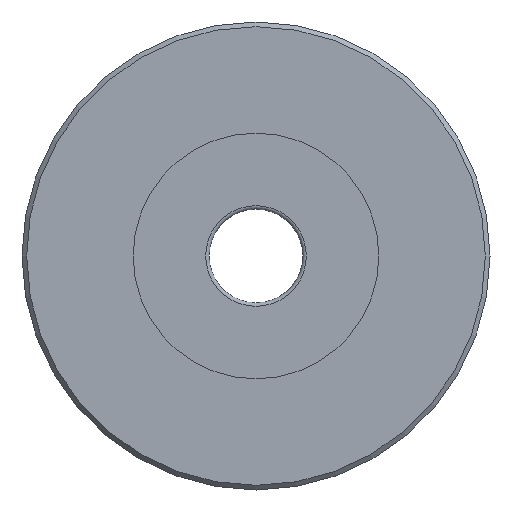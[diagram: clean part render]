
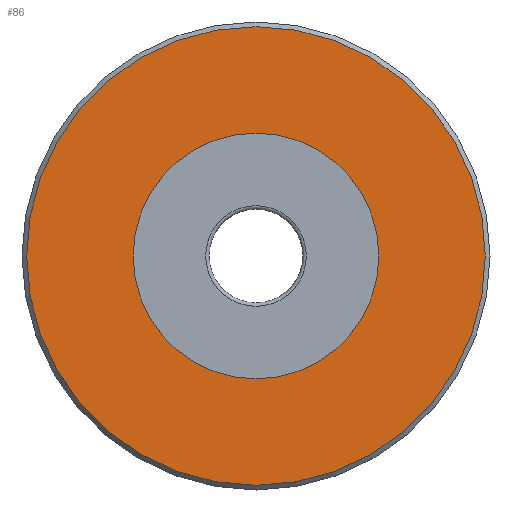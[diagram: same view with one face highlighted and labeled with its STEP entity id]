
A CAD part, left-side view. The second image highlights one B-rep face of the part: STEP entity #86.
In plain terms, the highlighted planar face has unit normal (-1, 0, 0).
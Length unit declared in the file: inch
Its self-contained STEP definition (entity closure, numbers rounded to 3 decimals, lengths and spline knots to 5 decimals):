
#59=CARTESIAN_POINT('',(10.75,24.8,0.));
#60=VERTEX_POINT('',#59);
#61=CARTESIAN_POINT('',(10.75,15.,0.));
#62=DIRECTION('',(-1.,0.,0.));
#63=DIRECTION('',(0.,1.,0.));
#64=AXIS2_PLACEMENT_3D('',#61,#62,#63);
#65=CIRCLE('',#64,9.8);
#66=EDGE_CURVE('',#60,#60,#65,.T.);
#67=ORIENTED_EDGE('',*,*,#66,.T.);
#68=EDGE_LOOP('',(#67));
#69=FACE_OUTER_BOUND('',#68,.T.);
#70=CARTESIAN_POINT('',(10.75,20.25,0.));
#71=VERTEX_POINT('',#70);
#72=CARTESIAN_POINT('',(10.75,15.,0.));
#73=DIRECTION('',(-1.,0.,0.));
#74=DIRECTION('',(0.,1.,0.));
#75=AXIS2_PLACEMENT_3D('',#72,#73,#74);
#76=CIRCLE('',#75,5.25);
#77=EDGE_CURVE('',#71,#71,#76,.T.);
#78=ORIENTED_EDGE('',*,*,#77,.F.);
#79=EDGE_LOOP('',(#78));
#80=FACE_BOUND('',#79,.T.);
#81=CARTESIAN_POINT('',(10.75,22.525,0.));
#82=DIRECTION('',(-1.,0.,0.));
#83=DIRECTION('',(0.,1.,0.));
#84=AXIS2_PLACEMENT_3D('',#81,#82,#83);
#85=PLANE('',#84);
#86=ADVANCED_FACE('',(#69,#80),#85,.T.);
